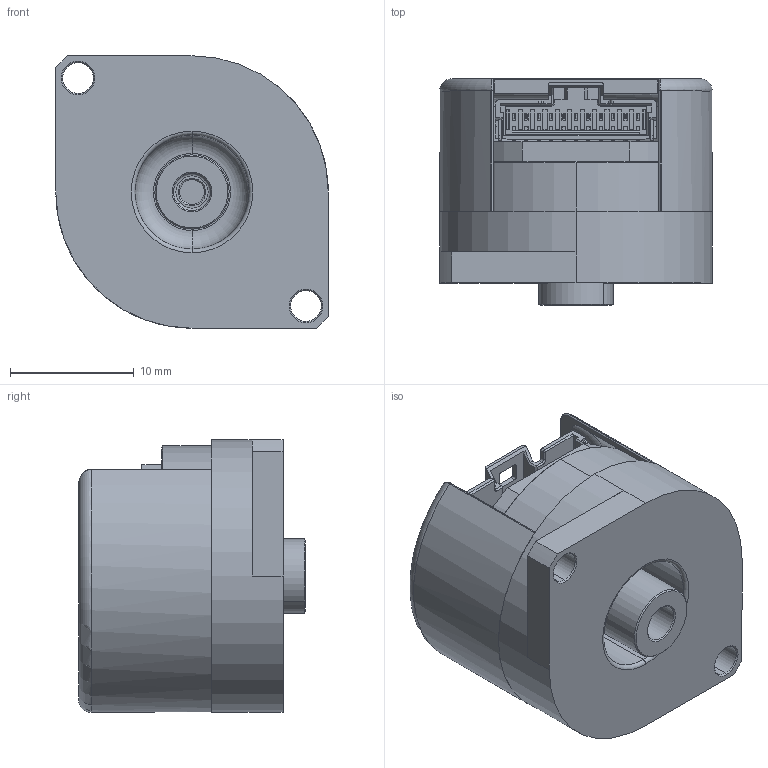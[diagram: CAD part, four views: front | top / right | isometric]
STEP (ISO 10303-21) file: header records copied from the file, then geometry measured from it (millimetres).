
FILE_DESCRIPTION (( 'STEP AP203' ), '1' );
FILE_NAME ('RMC22-subass-01-RMA03A3A07mag-actuator.STEP', '2014-01-13T08:22:59', ( '' ), ( '' ), 'SwSTEP 2.0', 'SolidWorks 2013', '' );
FILE_SCHEMA (( 'CONFIG_CONTROL_DESIGN' ));
Length unit declared in the file: millimetre
Products named in the file (11): RMA03A3A07-magnetic-actuator; RMC22-cover-casted-00; RMC22-subass-01-RMA03A3A07mag-actuator; Board-1; conn-Molex-5015681107; IC-SSOP28-AM4096-h1_86mm_Valor predeterminado; RMB20ICUv1-module-1; screwM1-6x4p; magnet-holder-MN00260-00; magnet-diam4x4; RMC22-body-casted-00
Assembly tree (11 placements, depth 3):
  RMC22-subass-01-RMA03A3A07mag-actuator
    RMC22-body-casted-00
    RMC22-cover-casted-00
    RMB20ICUv1-module-1
      Board-1
      conn-Molex-5015681107
      IC-SSOP28-AM4096-h1_86mm_Valor predeterminado
    screwM1-6x4p  x2
    RMA03A3A07-magnetic-actuator
      magnet-holder-MN00260-00
      magnet-diam4x4
Bounding box: 22 x 18.3 x 22 mm (x, y, z)
Volume: 4106.6 mm3; surface area: 5599.1 mm2
Topology: 38 solids, 38 shells, 1664 faces, 4315 edges, 2751 vertices
Faces by surface type: plane 1172, cylinder 314, cone 157, torus 18, bspline 3
Entity records: 50683 total; most frequent: CARTESIAN_POINT 8972, ORIENTED_EDGE 8496, DIRECTION 8251, EDGE_CURVE 4248, LINE 3355, VECTOR 3355, VERTEX_POINT 2711, AXIS2_PLACEMENT_3D 2448
